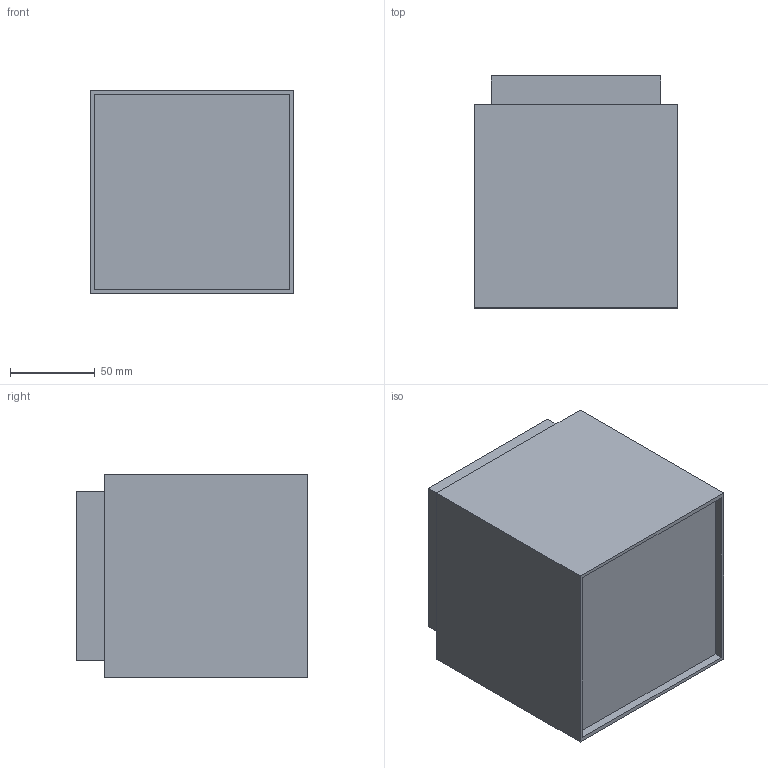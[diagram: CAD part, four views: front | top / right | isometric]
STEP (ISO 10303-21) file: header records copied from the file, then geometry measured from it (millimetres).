
FILE_DESCRIPTION (( 'STEP AP214' ), '1' );
FILE_NAME ('3D_CUBO_CEILING.STEP', '2018-03-16T10:05:12', ( 'Utente' ), ( '' ), 'SwSTEP 2.0', 'SolidWorks 2016', '' );
FILE_SCHEMA (( 'AUTOMOTIVE_DESIGN' ));
Length unit declared in the file: millimetre
Products named in the file (3): Parte1-1^3D_CUBO_CEILING; Group2^3D_CUBO_CEILING; 3D_CUBO_CEILING
Assembly tree (2 placements, depth 2):
  3D_CUBO_CEILING
    Group2^3D_CUBO_CEILING
    Parte1-1^3D_CUBO_CEILING
Bounding box: 120 x 136.86 x 120 mm (x, y, z)
Volume: 857861.5 mm3; surface area: 157629.5 mm2
Topology: 2 solids, 2 shells, 22 faces, 48 edges, 32 vertices
Faces by surface type: plane 22
Entity records: 702 total; most frequent: CARTESIAN_POINT 107, DIRECTION 102, ORIENTED_EDGE 96, VECTOR 48, EDGE_CURVE 48, LINE 48, VERTEX_POINT 32, AXIS2_PLACEMENT_3D 27
